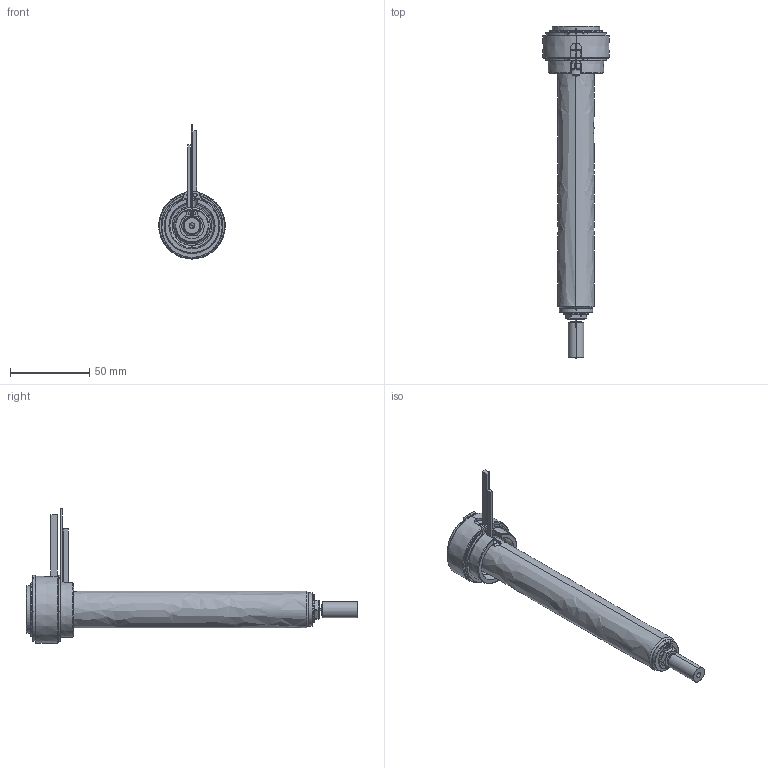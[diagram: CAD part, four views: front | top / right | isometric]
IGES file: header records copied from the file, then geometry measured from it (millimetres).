
Start section: SolidWorks IGES file using analytic representation for surfaces
Global section: file name: C:\Users\luca.EMPAD\Desktop\TEM\UGBE3504-M-A-P-3 [Ød-1.0 P-20 ØC-6.0].IGS; native system: SolidWorks 2012; preprocessor: SolidWorks 2012; author: luca; date: 120330.135542; units: millimetre
Bounding box: 42 x 209 x 84.4 mm (x, y, z)
Surface area: 35185.3 mm2 (no closed solid volume)
Topology: 0 solids, 0 shells, 177 faces, 3214 edges, 3214 vertices
Faces by surface type: revolution 111, bspline 66
